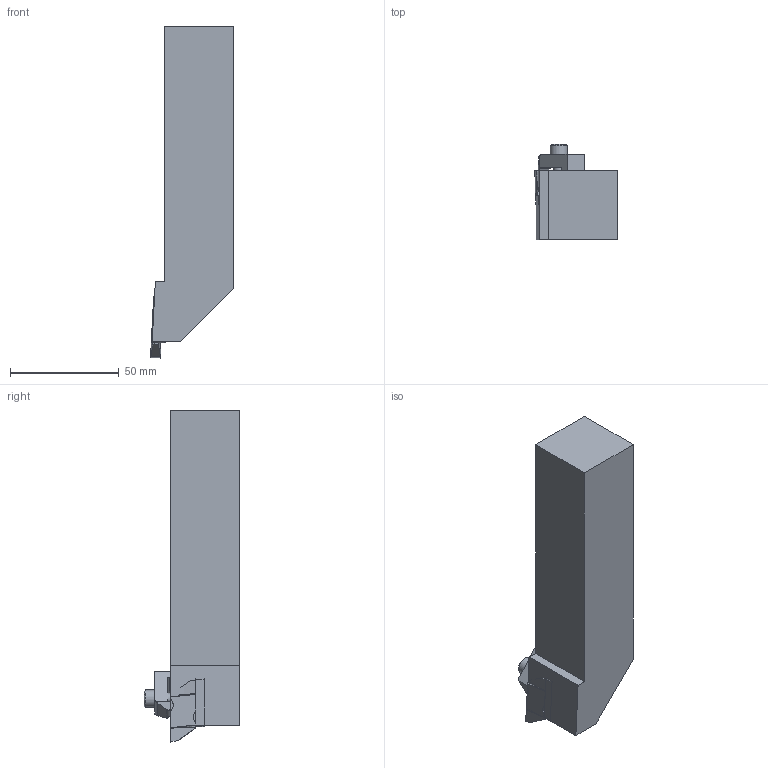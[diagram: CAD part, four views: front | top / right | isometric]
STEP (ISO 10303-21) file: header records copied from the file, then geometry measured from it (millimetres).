
FILE_DESCRIPTION(/* description */ (''),/* implementation_level */ '2;1');
FILE_NAME(/* name */ 'NSR204D_GTM.stp',/* time_stamp */ '2016-04-14T07:43:30+01:00',/* author */ (''),/* organization */ (''),/* preprocessor_version */ 'ST-DEVELOPER v15',/* originating_system */ 'SIEMENS PLM Software NX 9.0',/* authorisation */ '');
FILE_SCHEMA (('AUTOMOTIVE_DESIGN { 1 0 10303 214 3 1 1 1 }'));
Length unit declared in the file: millimetre
Products named in the file (1): NSR204D_GTM
Bounding box: 38.09 x 44.03 x 152.4 mm (x, y, z)
Volume: 144760.7 mm3; surface area: 23011.2 mm2
Topology: 5 solids, 6 shells, 113 faces, 299 edges, 199 vertices
Faces by surface type: plane 76, cylinder 24, cone 5, extrusion 4, bspline 4
Full cylindrical faces by diameter (mm): 2.845 x1, 3.175 x1, 4.229 x1, 4.826 x1, 7.938 x1
Entity records: 3830 total; most frequent: CARTESIAN_POINT 1002, ORIENTED_EDGE 568, DIRECTION 545, EDGE_CURVE 284, VECTOR 197, VERTEX_POINT 195, LINE 193, AXIS2_PLACEMENT_3D 174
